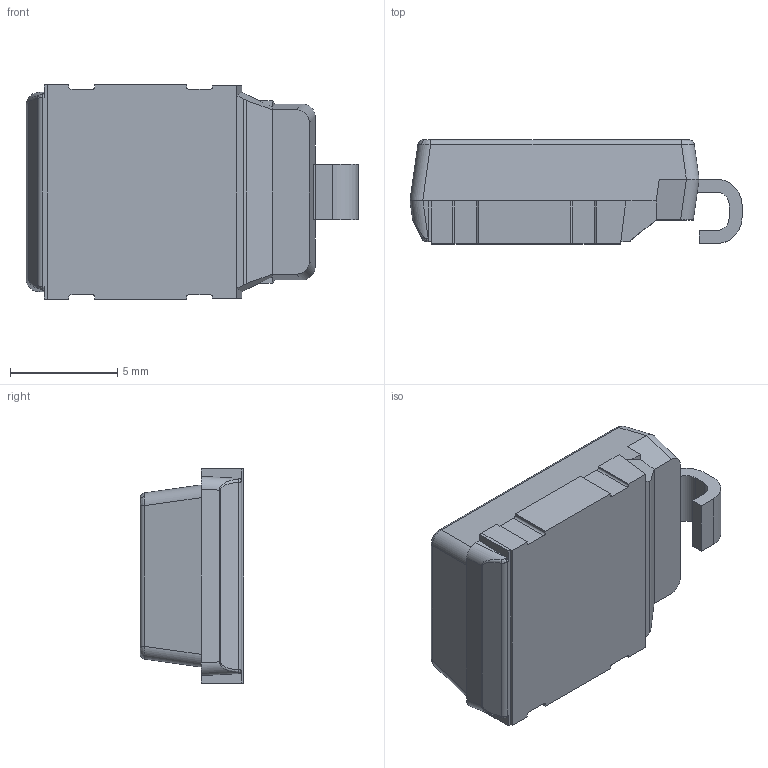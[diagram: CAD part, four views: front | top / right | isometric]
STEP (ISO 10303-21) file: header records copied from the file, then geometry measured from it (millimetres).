
FILE_DESCRIPTION (( 'STEP AP203' ), '1' );
FILE_NAME ('錨璃4.STEP', '2015-03-11T04:04:17', ( '' ), ( '' ), 'SwSTEP 2.0', 'SolidWorks 2013', '' );
FILE_SCHEMA (( 'CONFIG_CONTROL_DESIGN' ));
Length unit declared in the file: millimetre
Products named in the file (1): 錨璃4
Bounding box: 15.5 x 4.85 x 10 mm (x, y, z)
Volume: 532.7 mm3; surface area: 460.4 mm2
Topology: 1 solids, 1 shells, 104 faces, 275 edges, 173 vertices
Faces by surface type: plane 62, cylinder 29, bspline 13
Entity records: 3380 total; most frequent: CARTESIAN_POINT 854, ORIENTED_EDGE 550, DIRECTION 468, EDGE_CURVE 275, LINE 194, VECTOR 194, VERTEX_POINT 173, AXIS2_PLACEMENT_3D 137
